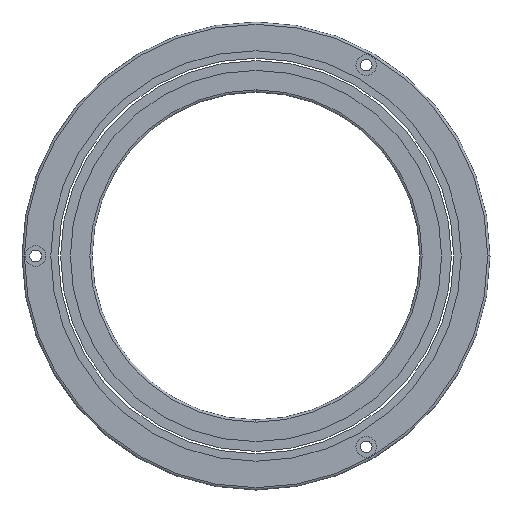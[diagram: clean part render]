
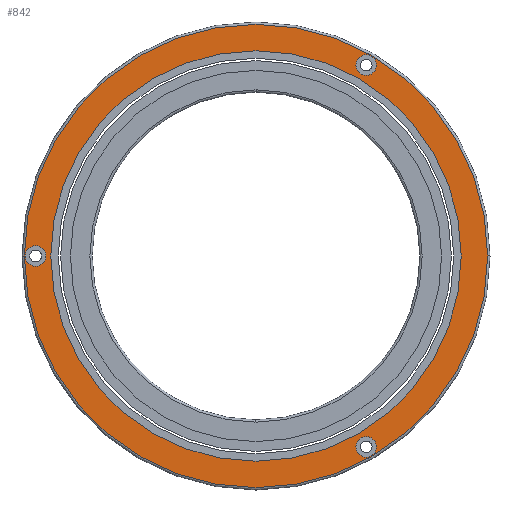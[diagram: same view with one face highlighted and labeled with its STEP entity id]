
A CAD part, front view. The second image highlights one B-rep face of the part: STEP entity #842.
In plain terms, the highlighted planar face has unit normal (0, -1, 0).
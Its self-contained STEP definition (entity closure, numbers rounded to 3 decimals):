
#61=CARTESIAN_POINT('',(0.,-0.1,0.));
#62=DIRECTION('',(0.,-1.,0.));
#63=DIRECTION('',(-1.,0.,0.));
#64=AXIS2_PLACEMENT_3D('',#61,#62,#63);
#66=CARTESIAN_POINT('',(0.,-0.1,0.));
#67=DIRECTION('',(0.,1.,0.));
#68=DIRECTION('',(-1.,0.,0.));
#69=AXIS2_PLACEMENT_3D('',#66,#67,#68);
#71=CARTESIAN_POINT('',(-47.1,-0.1,0.));
#72=DIRECTION('',(0.,1.,0.));
#73=DIRECTION('',(1.,0.,0.));
#74=AXIS2_PLACEMENT_3D('',#71,#72,#73);
#76=CARTESIAN_POINT('',(-47.1,-0.1,0.));
#77=DIRECTION('',(0.,1.,0.));
#78=DIRECTION('',(-1.,0.,0.));
#79=AXIS2_PLACEMENT_3D('',#76,#77,#78);
#81=CARTESIAN_POINT('',(23.55,-0.1,40.79));
#82=DIRECTION('',(0.,1.,0.));
#83=DIRECTION('',(-0.5,0.,-0.866));
#84=AXIS2_PLACEMENT_3D('',#81,#82,#83);
#86=CARTESIAN_POINT('',(23.55,-0.1,40.79));
#87=DIRECTION('',(0.,1.,0.));
#88=DIRECTION('',(0.5,0.,0.866));
#89=AXIS2_PLACEMENT_3D('',#86,#87,#88);
#91=CARTESIAN_POINT('',(23.55,-0.1,-40.79));
#92=DIRECTION('',(0.,1.,0.));
#93=DIRECTION('',(-0.5,0.,0.866));
#94=AXIS2_PLACEMENT_3D('',#91,#92,#93);
#96=CARTESIAN_POINT('',(23.55,-0.1,-40.79));
#97=DIRECTION('',(0.,1.,0.));
#98=DIRECTION('',(0.5,0.,-0.866));
#99=AXIS2_PLACEMENT_3D('',#96,#97,#98);
#101=CARTESIAN_POINT('',(0.,-0.1,0.));
#102=DIRECTION('',(0.,1.,0.));
#103=DIRECTION('',(-1.,0.,0.));
#104=AXIS2_PLACEMENT_3D('',#101,#102,#103);
#106=CARTESIAN_POINT('',(0.,-0.1,0.));
#107=DIRECTION('',(0.,1.,0.));
#108=DIRECTION('',(1.,0.,0.));
#109=AXIS2_PLACEMENT_3D('',#106,#107,#108);
#667=CARTESIAN_POINT('',(-44.9,-0.1,0.));
#668=VERTEX_POINT('',#667);
#669=CARTESIAN_POINT('',(-49.3,-0.1,0.));
#670=VERTEX_POINT('',#669);
#679=CARTESIAN_POINT('',(22.45,-0.1,38.885));
#680=VERTEX_POINT('',#679);
#681=CARTESIAN_POINT('',(24.65,-0.1,42.695));
#682=VERTEX_POINT('',#681);
#691=CARTESIAN_POINT('',(22.45,-0.1,-38.885));
#692=VERTEX_POINT('',#691);
#693=CARTESIAN_POINT('',(24.65,-0.1,-42.695));
#694=VERTEX_POINT('',#693);
#712=CARTESIAN_POINT('',(-43.85,-0.1,0.));
#714=VERTEX_POINT('',#712);
#716=CARTESIAN_POINT('',(43.85,-0.1,0.));
#718=VERTEX_POINT('',#716);
#731=CARTESIAN_POINT('',(-49.5,-0.1,0.));
#732=CARTESIAN_POINT('',(49.5,-0.1,0.));
#733=VERTEX_POINT('',#731);
#734=VERTEX_POINT('',#732);
#809=CARTESIAN_POINT('',(0.,-0.1,0.));
#810=DIRECTION('',(0.,1.,0.));
#811=DIRECTION('',(1.,0.,0.));
#812=AXIS2_PLACEMENT_3D('',#809,#810,#811);
#813=PLANE('',#812);
#815=ORIENTED_EDGE('',*,*,#814,.T.);
#817=ORIENTED_EDGE('',*,*,#816,.T.);
#818=EDGE_LOOP('',(#815,#817));
#819=FACE_OUTER_BOUND('',#818,.F.);
#821=ORIENTED_EDGE('',*,*,#820,.F.);
#823=ORIENTED_EDGE('',*,*,#822,.F.);
#824=EDGE_LOOP('',(#821,#823));
#825=FACE_BOUND('',#824,.F.);
#827=ORIENTED_EDGE('',*,*,#826,.F.);
#829=ORIENTED_EDGE('',*,*,#828,.F.);
#830=EDGE_LOOP('',(#827,#829));
#831=FACE_BOUND('',#830,.F.);
#833=ORIENTED_EDGE('',*,*,#832,.F.);
#835=ORIENTED_EDGE('',*,*,#834,.F.);
#836=EDGE_LOOP('',(#833,#835));
#837=FACE_BOUND('',#836,.F.);
#838=ORIENTED_EDGE('',*,*,#804,.T.);
#839=ORIENTED_EDGE('',*,*,#788,.F.);
#840=EDGE_LOOP('',(#838,#839));
#841=FACE_BOUND('',#840,.F.);
#65=CIRCLE('',#64,43.85);
#70=CIRCLE('',#69,43.85);
#75=CIRCLE('',#74,2.2);
#80=CIRCLE('',#79,2.2);
#85=CIRCLE('',#84,2.2);
#90=CIRCLE('',#89,2.2);
#95=CIRCLE('',#94,2.2);
#100=CIRCLE('',#99,2.2);
#105=CIRCLE('',#104,49.5);
#110=CIRCLE('',#109,49.5);
#788=EDGE_CURVE('',#714,#718,#70,.T.);
#804=EDGE_CURVE('',#714,#718,#65,.T.);
#814=EDGE_CURVE('',#733,#734,#105,.T.);
#816=EDGE_CURVE('',#734,#733,#110,.T.);
#820=EDGE_CURVE('',#668,#670,#75,.T.);
#822=EDGE_CURVE('',#670,#668,#80,.T.);
#826=EDGE_CURVE('',#680,#682,#85,.T.);
#828=EDGE_CURVE('',#682,#680,#90,.T.);
#832=EDGE_CURVE('',#692,#694,#95,.T.);
#834=EDGE_CURVE('',#694,#692,#100,.T.);
#842=ADVANCED_FACE('',(#819,#825,#831,#837,#841),#813,.F.);
